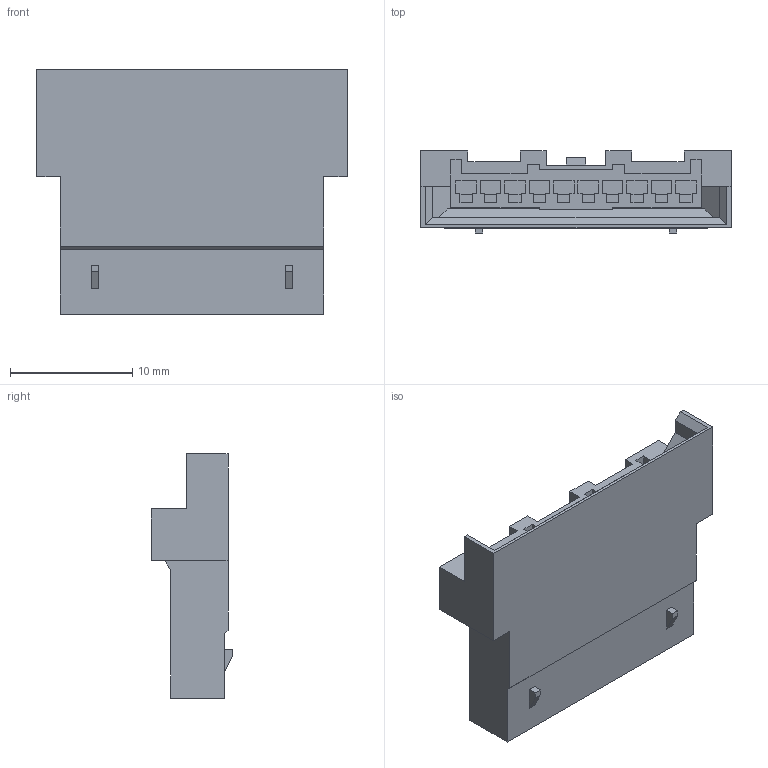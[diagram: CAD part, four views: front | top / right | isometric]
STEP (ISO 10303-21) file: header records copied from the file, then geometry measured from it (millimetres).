
FILE_DESCRIPTION (( 'STEP AP214' ), '1' );
FILE_NAME ('HC-PAH-10SY-05 (2.0 等齬 譫謂釱-HCTL).STEP', '2025-01-03T03:43:04', ( '' ), ( '' ), 'SwSTEP 2.0', 'SolidWorks 2022', '' );
FILE_SCHEMA (( 'AUTOMOTIVE_DESIGN' ));
Length unit declared in the file: millimetre
Products named in the file (1): HC-PAH-10SY-05 (2.0 等齬 譫謂釱-HCTL)
Bounding box: 25.4 x 6.7 x 20 mm (x, y, z)
Volume: 1638.1 mm3; surface area: 1712.4 mm2
Topology: 1 solids, 1 shells, 248 faces, 661 edges, 438 vertices
Faces by surface type: plane 248
Entity records: 7575 total; most frequent: CARTESIAN_POINT 1348, ORIENTED_EDGE 1322, DIRECTION 1159, LINE 661, EDGE_CURVE 661, VECTOR 661, VERTEX_POINT 438, EDGE_LOOP 271
